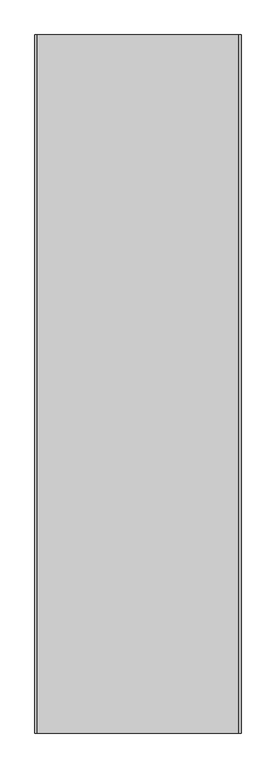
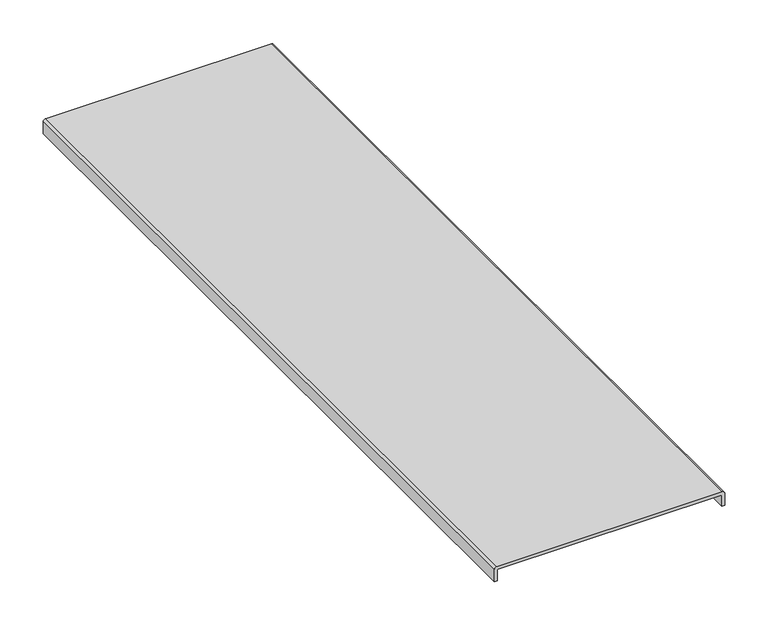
"""IFC4 building model written with IfcOpenShell, lengths in millimetres: proxy geometry, Cable_Tray_Cover_TWT_Basorcanal : Basorcanal TWT 300."""

from ifc_helpers import new_model, si_unit, point, frame, frame_2d, origin, place, context, project, spatial, polyline, circle_curve, trimmed, segment, composite_curve, outline, extrude, source, transform, mapped, element, save


def generic_models_18c6242b(model_context):
    return source(origin(), model_context, "Body", "SweptSolid", [
        extrude(outline(composite_curve([segment(trimmed(circle_curve(frame_2d((-0.5, -149.5)), 0.5), [point((-0.5, -150.0))], [point((0.0, -149.5))], True, "CARTESIAN"), True, "CONTINUOUS"), segment(polyline([(0.0, -149.5), (0.0, 149.5)]), True, "CONTINUOUS"), segment(trimmed(circle_curve(frame_2d((-0.5, 149.5)), 0.5), [point((0.0, 149.5))], [point((-0.5, 150.0))], True, "CARTESIAN"), True, "CONTINUOUS"), segment(polyline([(-0.5, 150.0), (-16.0, 150.0), (-16.0, 154.0), (0.9268922, 154.0)]), True, "CONTINUOUS"), segment(trimmed(circle_curve(frame_2d((0.9268922, 150.9268922)), 3.0731078), [point((0.9268922, 154.0))], [point((4.0, 150.9268922))], False, "CARTESIAN"), True, "CONTINUOUS"), segment(polyline([(4.0, 150.9268922), (4.0, -150.6770801)]), True, "CONTINUOUS"), segment(trimmed(circle_curve(frame_2d((0.6770801, -150.6770801)), 3.3229199), [point((4.0, -150.6770801))], [point((0.6770801, -154.0))], False, "CARTESIAN"), True, "CONTINUOUS"), segment(polyline([(0.6770801, -154.0), (-16.0, -154.0), (-16.0, -150.0), (-0.5, -150.0)]), True, "CONTINUOUS")], self_intersect=False)), frame((0.0, 0.0, 0.0), z_axis=(0.0, 1.0, 0.0), x_axis=(0.0, 0.0, 1.0)), (0.0, 0.0, 1.0), 1043.3),
    ])


if __name__ == "__main__":
    model = new_model("IFC4")
    model_context = context("Model", 3, world=origin())
    ifc_project = project(units=[si_unit("LENGTHUNIT", "METRE", prefix="MILLI")], contexts=[model_context])
    site = spatial("IfcSite", under=ifc_project)
    building = spatial("IfcBuilding", under=site)
    placement = place(None, origin())
    generic_models_shape = generic_models_18c6242b(model_context)
    element("IfcBuildingElementProxy", 1, Name="Cable_Tray_Cover_TWT_Basorcanal : Basorcanal TWT 300", ObjectType="Cable_Tray_Cover_TWT_Basorcanal : Basorcanal TWT 300", at=placement, inside=building, context=model_context, shape_type="MappedRepresentation", body=[
        mapped(generic_models_shape, transform((0.0, 0.0, 0.0), x_axis=(1.0, 0.0, 0.0), y_axis=(0.0, 1.0, 0.0), z_axis=(0.0, 0.0, 1.0))),
    ])
    save(model, "model.ifc")
